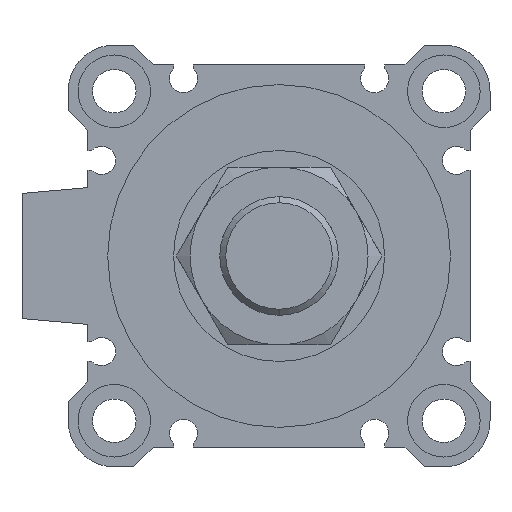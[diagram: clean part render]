
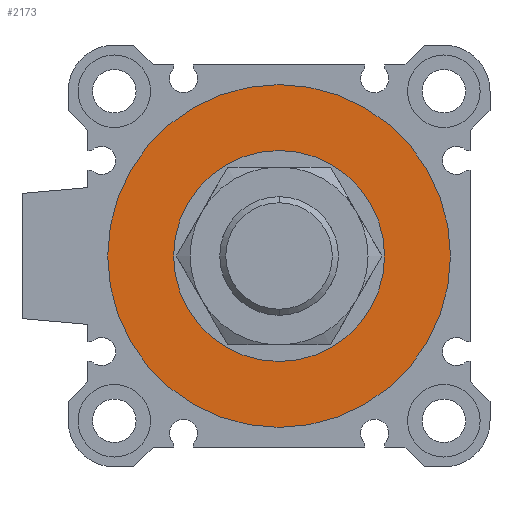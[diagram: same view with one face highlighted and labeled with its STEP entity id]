
A CAD part, left-side view. The second image highlights one B-rep face of the part: STEP entity #2173.
In plain terms, the highlighted planar face has unit normal (-1, 0, 0).
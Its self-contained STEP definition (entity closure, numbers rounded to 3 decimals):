
#31 = CARTESIAN_POINT ( 'NONE',  ( 3., 0., -16. ) ) ;
#151 = EDGE_CURVE ( 'NONE', #4607, #3973, #2126, .T. ) ;
#270 = DIRECTION ( 'NONE',  ( 1., 0., 0. ) ) ;
#278 = CARTESIAN_POINT ( 'NONE',  ( 3., 0., 26. ) ) ;
#384 = FACE_OUTER_BOUND ( 'NONE', #676, .T. ) ;
#676 = EDGE_LOOP ( 'NONE', ( #2155, #2443 ) ) ;
#1102 = CARTESIAN_POINT ( 'NONE',  ( 3., 0., -26. ) ) ;
#1448 = CIRCLE ( 'NONE', #5753, 16. ) ;
#1478 = CARTESIAN_POINT ( 'NONE',  ( 3., 0., 16. ) ) ;
#2126 = CIRCLE ( 'NONE', #3400, 26. ) ;
#2155 = ORIENTED_EDGE ( 'NONE', *, *, #2396, .F. ) ;
#2173 = ADVANCED_FACE ( 'NONE', ( #384, #6547 ), #3639, .F. ) ;
#2396 = EDGE_CURVE ( 'NONE', #3973, #4607, #3654, .T. ) ;
#2442 = EDGE_CURVE ( 'NONE', #2881, #3401, #1448, .T. ) ;
#2443 = ORIENTED_EDGE ( 'NONE', *, *, #151, .F. ) ;
#2581 = CARTESIAN_POINT ( 'NONE',  ( 3., 0., 0. ) ) ;
#2595 = DIRECTION ( 'NONE',  ( 1., 0., 0. ) ) ;
#2881 = VERTEX_POINT ( 'NONE', #1478 ) ;
#3036 = DIRECTION ( 'NONE',  ( 1., 0., 0. ) ) ;
#3195 = DIRECTION ( 'NONE',  ( 0., 0., -1. ) ) ;
#3217 = CARTESIAN_POINT ( 'NONE',  ( 3., 0., 0. ) ) ;
#3400 = AXIS2_PLACEMENT_3D ( 'NONE', #3217, #2595, #5372 ) ;
#3401 = VERTEX_POINT ( 'NONE', #31 ) ;
#3630 = CARTESIAN_POINT ( 'NONE',  ( 3., 0., 0. ) ) ;
#3639 = PLANE ( 'NONE',  #7019 ) ;
#3654 = CIRCLE ( 'NONE', #4490, 26. ) ;
#3973 = VERTEX_POINT ( 'NONE', #278 ) ;
#4128 = AXIS2_PLACEMENT_3D ( 'NONE', #6444, #3036, #6375 ) ;
#4473 = EDGE_LOOP ( 'NONE', ( #6912, #6886 ) ) ;
#4490 = AXIS2_PLACEMENT_3D ( 'NONE', #4604, #270, #6257 ) ;
#4604 = CARTESIAN_POINT ( 'NONE',  ( 3., 0., 0. ) ) ;
#4607 = VERTEX_POINT ( 'NONE', #1102 ) ;
#4653 = DIRECTION ( 'NONE',  ( 0., 1., 0. ) ) ;
#5292 = CIRCLE ( 'NONE', #4128, 16. ) ;
#5372 = DIRECTION ( 'NONE',  ( 0., 0., -1. ) ) ;
#5753 = AXIS2_PLACEMENT_3D ( 'NONE', #3630, #6427, #3195 ) ;
#6257 = DIRECTION ( 'NONE',  ( 0., 0., -1. ) ) ;
#6375 = DIRECTION ( 'NONE',  ( 0., 0., -1. ) ) ;
#6427 = DIRECTION ( 'NONE',  ( 1., 0., 0. ) ) ;
#6444 = CARTESIAN_POINT ( 'NONE',  ( 3., 0., 0. ) ) ;
#6547 = FACE_BOUND ( 'NONE', #4473, .T. ) ;
#6663 = EDGE_CURVE ( 'NONE', #3401, #2881, #5292, .T. ) ;
#6886 = ORIENTED_EDGE ( 'NONE', *, *, #6663, .T. ) ;
#6912 = ORIENTED_EDGE ( 'NONE', *, *, #2442, .T. ) ;
#7017 = DIRECTION ( 'NONE',  ( 1., 0., 0. ) ) ;
#7019 = AXIS2_PLACEMENT_3D ( 'NONE', #2581, #7017, #4653 ) ;
